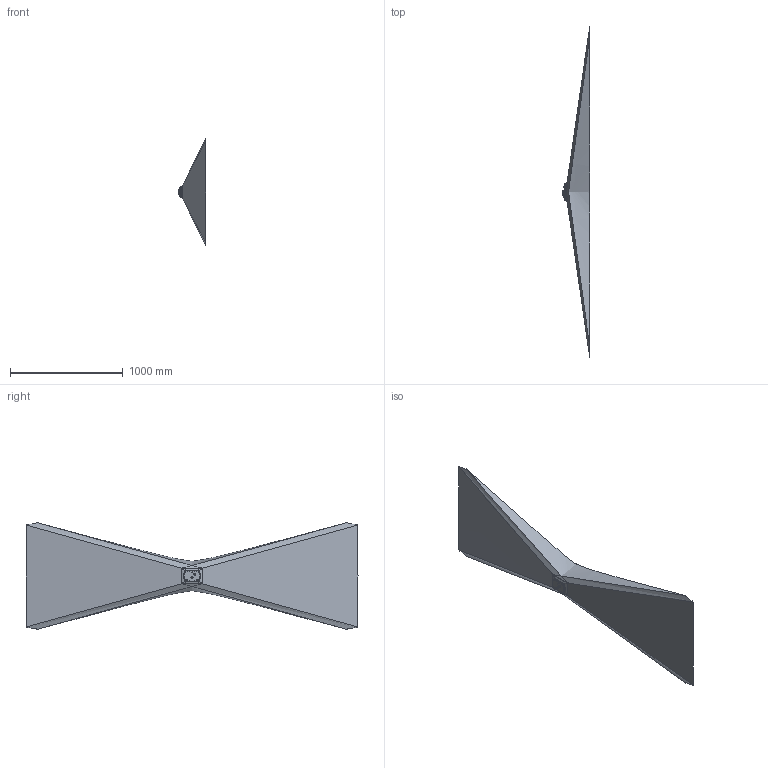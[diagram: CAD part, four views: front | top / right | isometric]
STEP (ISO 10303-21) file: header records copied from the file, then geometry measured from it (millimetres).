
FILE_DESCRIPTION(('CATIA V5 STEP Exchange','CAx-IF Rec.Pracs.--- Model Styling and Organization---1.5--- 2016-08-15','CAx-IF Rec.Pracs.---Supplemental Geometry---1.0---2011-11-01','CAx-IF Rec.Pracs.--- Composite Materials ---1.1---2010-07-15'),'2;1');
FILE_NAME('E:\tmp\ddx\2011204\3D_data_LED_direction_indicator_lamp_SHAPELINE_tech_2BA 013 330.stp','2022-01-18T07:29:43+00:00',('none'),('none'),'CATIA Version 5-6 Release 2020 SP3 HF9','CATIA V5 STEP AP214 Edition 3 v2','none');
FILE_SCHEMA(('AUTOMOTIVE_DESIGN { 1 0 10303 214 3 1 1 1 }'));
Products named in the file (1): 10001749992_D10_001
Bounding box: 243.1 x 2938.44 x 948.93 mm (x, y, z)
Volume: 317130 mm3; surface area: 2648895.2 mm2
Topology: 1 solids, 5 shells, 2065 faces, 5110 edges, 3122 vertices
Faces by surface type: plane 553, bspline 522, cylinder 381, extrusion 347, torus 160, cone 74, revolution 18, sphere 10
Entity records: 95964 total; most frequent: CARTESIAN_POINT 55389, ORIENTED_EDGE 10164, EDGE_CURVE 5100, DIRECTION 4932, VERTEX_POINT 3122, B_SPLINE_CURVE_WITH_KNOTS 2386, EDGE_LOOP 2156, VECTOR 2086
